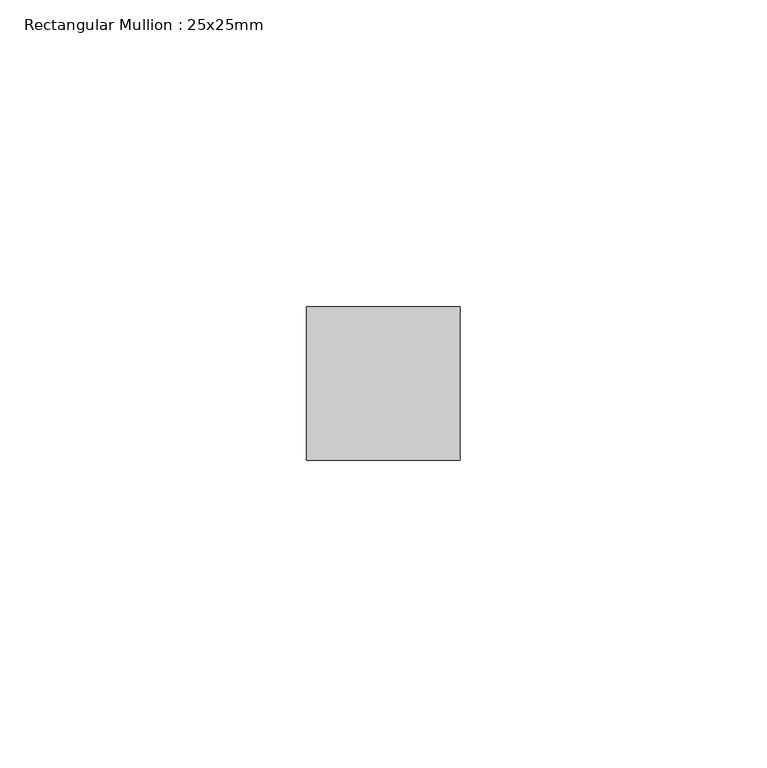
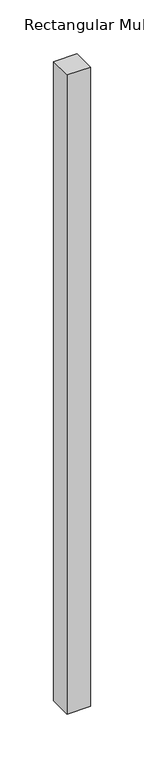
"""IFC4 building model written with IfcOpenShell, lengths in millimetres: member geometry, Rectangular Mullion : 25x25mm."""

from ifc_helpers import new_model, si_unit, frame, origin, place, context, project, spatial, polyline, outline, extrude, source, transform, mapped, element, save


def rectangular_mullion_25x25mm_6c57a8fc(model_context):
    return source(origin(), model_context, "Body", "SweptSolid", [
        extrude(outline(polyline([(12.5, 24.5), (12.5, -0.5), (-12.5, -0.5), (-12.5, 24.5), (12.5, 24.5)])), frame((0.0, 0.0, -725.0), z_axis=(0.0, 0.0, 1.0), x_axis=(1.0, 0.0, 0.0)), (0.0, 0.0, 1.0), 725.0),
    ])


if __name__ == "__main__":
    model = new_model("IFC4")
    model_context = context("Model", 3, world=origin())
    ifc_project = project(units=[si_unit("LENGTHUNIT", "METRE", prefix="MILLI")], contexts=[model_context])
    site = spatial("IfcSite", under=ifc_project)
    building = spatial("IfcBuilding", under=site)
    placement = place(None, origin())
    rectangular_mullion_25x25mm_shape = rectangular_mullion_25x25mm_6c57a8fc(model_context)
    element("IfcMember", 1, ObjectType="Rectangular Mullion : 25x25mm", at=placement, inside=building, context=model_context, shape_type="MappedRepresentation", body=[
        mapped(rectangular_mullion_25x25mm_shape, transform((0.0, 0.0, 0.0), x_axis=(1.0, 0.0, 0.0), y_axis=(0.0, 1.0, 0.0), z_axis=(0.0, 0.0, 1.0))),
    ])
    save(model, "model.ifc")
